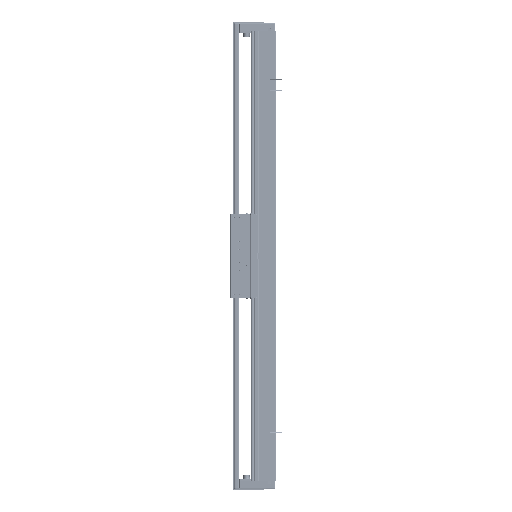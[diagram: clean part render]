
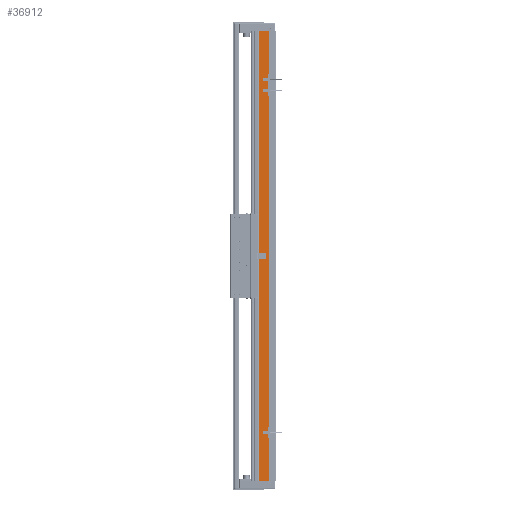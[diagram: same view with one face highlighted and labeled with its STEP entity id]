
A CAD part, left-side view. The second image highlights one B-rep face of the part: STEP entity #36912.
In plain terms, the highlighted planar face has unit normal (-1, 0, 0).
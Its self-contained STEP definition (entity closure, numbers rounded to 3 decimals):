
#665 = CARTESIAN_POINT ( 'NONE',  ( -97.5, 36.95, 510. ) ) ;
#3119 = LINE ( 'NONE', #39246, #49056 ) ;
#11945 = EDGE_CURVE ( 'NONE', #64139, #81630, #31150, .T. ) ;
#12161 = DIRECTION ( 'NONE',  ( 0., 1., 0. ) ) ;
#15020 = PLANE ( 'NONE',  #77351 ) ;
#16344 = ORIENTED_EDGE ( 'NONE', *, *, #120201, .T. ) ;
#16830 = DIRECTION ( 'NONE',  ( 0., 0., -1. ) ) ;
#23010 = CARTESIAN_POINT ( 'NONE',  ( -97.5, 36.95, 510. ) ) ;
#31150 = LINE ( 'NONE', #111597, #71650 ) ;
#31842 = LINE ( 'NONE', #665, #141244 ) ;
#36656 = CARTESIAN_POINT ( 'NONE',  ( -97.5, 14.45, 510. ) ) ;
#36912 = ADVANCED_FACE ( 'NONE', ( #112904 ), #15020, .F. ) ;
#39246 = CARTESIAN_POINT ( 'NONE',  ( -97.5, 14.45, 510. ) ) ;
#46898 = DIRECTION ( 'NONE',  ( 1., 0., 0. ) ) ;
#49056 = VECTOR ( 'NONE', #16830, 1000. ) ;
#49692 = LINE ( 'NONE', #138171, #106469 ) ;
#50858 = CARTESIAN_POINT ( 'NONE',  ( -97.5, 36.95, 510. ) ) ;
#58830 = EDGE_CURVE ( 'NONE', #93782, #81630, #3119, .T. ) ;
#64139 = VERTEX_POINT ( 'NONE', #131675 ) ;
#66422 = EDGE_CURVE ( 'NONE', #126492, #93782, #31842, .T. ) ;
#66625 = DIRECTION ( 'NONE',  ( 0., -1., 0. ) ) ;
#71650 = VECTOR ( 'NONE', #66625, 1000. ) ;
#76031 = DIRECTION ( 'NONE',  ( 0., -1., 0. ) ) ;
#77351 = AXIS2_PLACEMENT_3D ( 'NONE', #23010, #46898, #12161 ) ;
#77512 = ORIENTED_EDGE ( 'NONE', *, *, #58830, .F. ) ;
#80173 = EDGE_LOOP ( 'NONE', ( #138400, #77512, #98478, #16344 ) ) ;
#81630 = VERTEX_POINT ( 'NONE', #132304 ) ;
#93782 = VERTEX_POINT ( 'NONE', #36656 ) ;
#98478 = ORIENTED_EDGE ( 'NONE', *, *, #66422, .F. ) ;
#106469 = VECTOR ( 'NONE', #127303, 1000. ) ;
#111597 = CARTESIAN_POINT ( 'NONE',  ( -97.5, 36.95, -510. ) ) ;
#112904 = FACE_OUTER_BOUND ( 'NONE', #80173, .T. ) ;
#120201 = EDGE_CURVE ( 'NONE', #126492, #64139, #49692, .T. ) ;
#126492 = VERTEX_POINT ( 'NONE', #50858 ) ;
#127303 = DIRECTION ( 'NONE',  ( 0., 0., -1. ) ) ;
#131675 = CARTESIAN_POINT ( 'NONE',  ( -97.5, 36.95, -510. ) ) ;
#132304 = CARTESIAN_POINT ( 'NONE',  ( -97.5, 14.45, -510. ) ) ;
#138171 = CARTESIAN_POINT ( 'NONE',  ( -97.5, 36.95, 510. ) ) ;
#138400 = ORIENTED_EDGE ( 'NONE', *, *, #11945, .T. ) ;
#141244 = VECTOR ( 'NONE', #76031, 1000. ) ;
